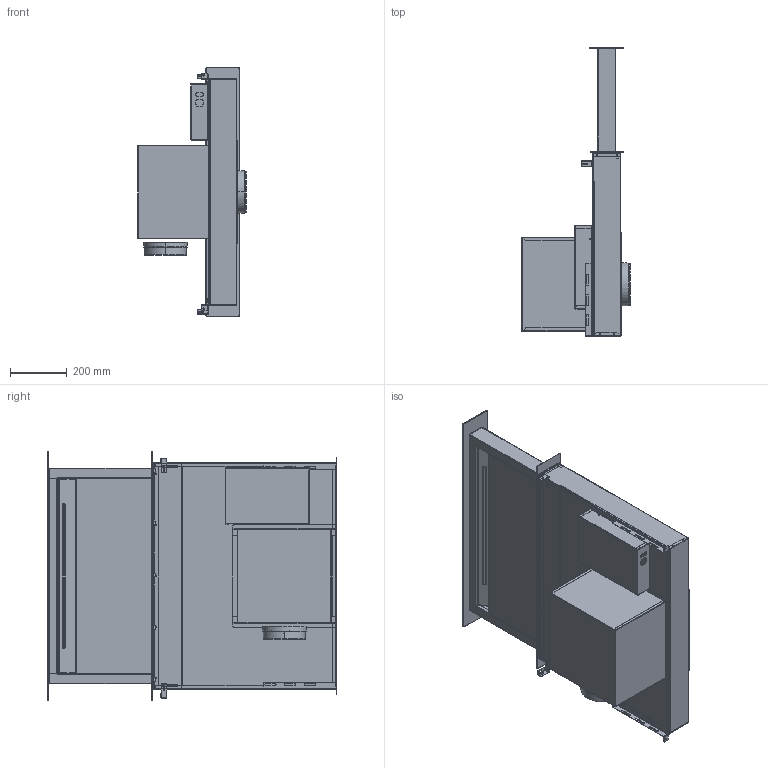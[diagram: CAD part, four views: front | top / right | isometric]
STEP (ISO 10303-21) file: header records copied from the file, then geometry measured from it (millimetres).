
FILE_DESCRIPTION( ( 'Cobalt' ), 'Build 889' );
FILE_NAME( '/Users/zacharias/Desktop/Miguel Leotte Planungsdaten/DA 2016 Albatros LEOM/X6400400005-A/X6400400005-A.stp', ' ', ( 'Albatrosd Design' ), ( 'Albatros Design' ), 'ACIS Interop', 'Ashlar, Incorporated', 'Cobalt BY ASHLAR, INCORPORATED' );
FILE_SCHEMA( ( 'automotive_design' ) );
Length unit declared in the file: inch
Products named in the file (21): 1017648|1017649;MANIFOLD_SOLID_BREP #45998; 1017648|1017650;MANIFOLD_SOLID_BREP #47794; 1017648|1017651;MANIFOLD_SOLID_BREP #49027; 1017648|1017652;MANIFOLD_SOLID_BREP #50261; 1017648|1017666;MANIFOLD_SOLID_BREP #50579; 1017648|1017667;MANIFOLD_SOLID_BREP #73274; 1017648|1017668;MANIFOLD_SOLID_BREP #36036; 1017648|1017669;MANIFOLD_SOLID_BREP #39247; 1017648|1017665;MANIFOLD_SOLID_BREP #5535; 1017648|1017653;MANIFOLD_SOLID_BREP #14263; 1017648|1017654;MANIFOLD_SOLID_BREP #17641; 1017648|1017655;MANIFOLD_SOLID_BREP #24134; 1017648|1017656;MANIFOLD_SOLID_BREP #26526; 1017648|1017657;MANIFOLD_SOLID_BREP #42488; 1017648|1017658;MANIFOLD_SOLID_BREP #43438; 1017648|1017659;MANIFOLD_SOLID_BREP #53699; 1017648|1017660;MANIFOLD_SOLID_BREP #62326; 1017648|1017661;MANIFOLD_SOLID_BREP #63578; 1017648|1017662;MANIFOLD_SOLID_BREP #52931; 1017648|1017663;MANIFOLD_SOLID_BREP #80889; 1017648|1017664;MANIFOLD_SOLID_BREP #44173
Bounding box: 383.48 x 1022.3 x 880 mm (x, y, z)
Volume: 3821026.1 mm3; surface area: 6656167.7 mm2
Topology: 21 solids, 21 shells, 1902 faces, 4801 edges, 2828 vertices
Faces by surface type: plane 1197, cylinder 595, bspline 60, torus 28, cone 22
Entity records: 118993 total; most frequent: CARTESIAN_POINT 20270, ORIENTED_EDGE 9602, STYLED_ITEM 9552, PRESENTATION_STYLE_ASSIGNMENT 9552, COLOUR_RGB 9552, DIRECTION 8879, EDGE_CURVE 4801, CURVE_STYLE 4801
